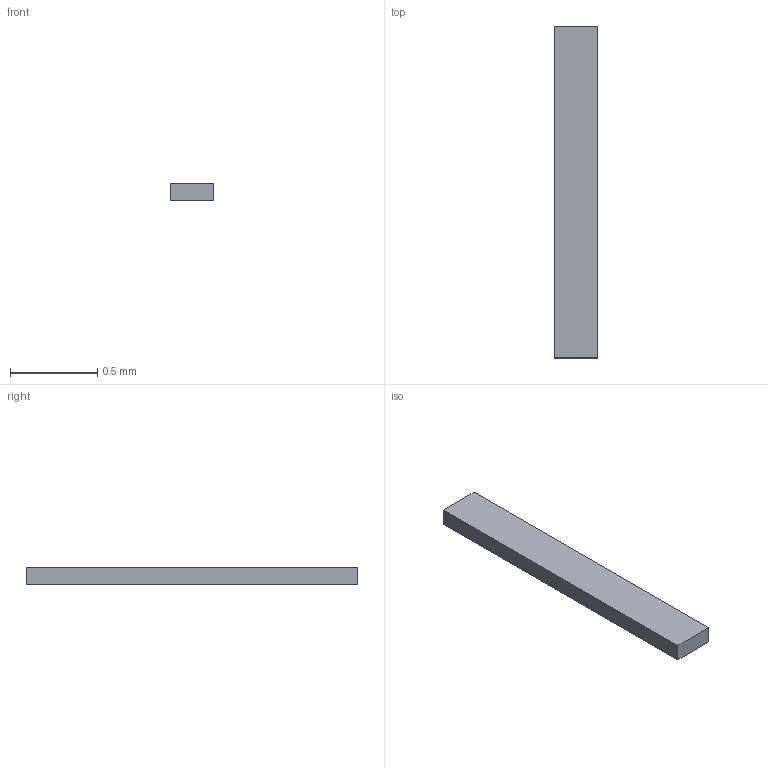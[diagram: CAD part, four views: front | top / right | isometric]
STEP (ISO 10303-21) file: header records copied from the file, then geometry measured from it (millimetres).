
FILE_DESCRIPTION(/* description */ ('STEP AP242 Edition 2','CAx-IF Rec.Pracs.---Representation and Presentation of Product Manufacturing Information (PMI)---4.0---2014-10-13','CAx-IF Rec.Pracs.---3D Tessellated Geometry---0.4---2014-09-14','2;1','CAx-IF Rec.Pracs.---User Defined Attributes---1.5---2016-08-15'),/* implementation_level */ '2;1');
FILE_NAME(/* name */ 'v2_assembly - USB_C_Receptacle_GCT_USB4105-xx-A_16P_TopMnt_Horizontal (30)',/* time_stamp */ '2026-05-19T16:26:08Z',/* author */ (''),/* organization */ (''),/* preprocessor_version */ 'ST-DEVELOPER v20',/* originating_system */ 'ONSHAPE BY PTC INC, 1.215',/* authorisation */ ' ');
FILE_SCHEMA (('AP242_MANAGED_MODEL_BASED_3D_ENGINEERING_MIM_LF { 1 0 10303 442 3 1 4 }'));
Length unit declared in the file: metre
Products named in the file (1): USB_C_Receptacle_GCT_USB4105-xx-A_16P_TopMnt_Horizontal
Bounding box: 0.25 x 1.9 x 0.1 mm (x, y, z)
Volume: 0 mm3; surface area: 1.4 mm2
Topology: 1 solids, 1 shells, 6 faces, 12 edges, 8 vertices
Faces by surface type: plane 6
Entity records: 221 total; most frequent: CARTESIAN_POINT 27, DIRECTION 26, ORIENTED_EDGE 24, EDGE_CURVE 12, LINE 12, VECTOR 12, VERTEX_POINT 8, PRESENTATION_STYLE_ASSIGNMENT 7
